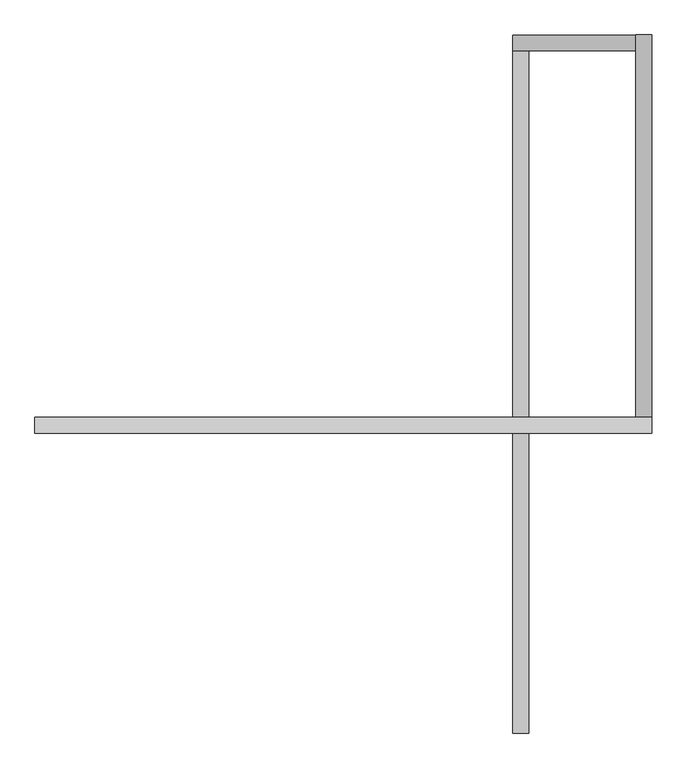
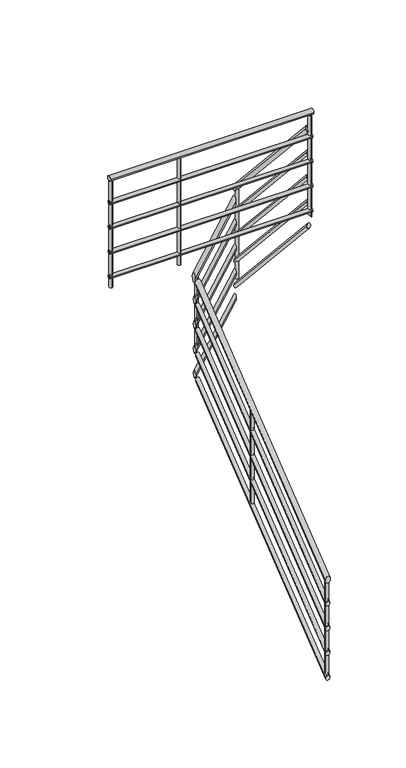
"""IFC4 building model written with IfcOpenShell, lengths in millimetres: railing geometry, Труба 900мм."""

from ifc_helpers import new_model, si_unit, point, frame, frame_2d, origin, place, context, project, spatial, circle_curve, ellipse_curve, trimmed, segment, composite_curve, outline, extrude, source, transform, mapped, element, save
from ifc_brep_helpers import plane_surface, cylinder_surface, advanced_brep


def railing_461c5c3b(model_context):
    return source(origin(), model_context, "Body", "SolidModel", [
        advanced_brep(
        [(-6989.2998207, 4395.4374152, 976.3290722), (-6949.2998207, 4395.4374152, 976.3290722), (-6989.2998207, 6114.4374152, 2338.8125597), (-6949.2998207, 6114.4374152, 2338.8125597)],
        [
            (0, 1, ellipse_curve(frame((-6969.2998207, 4395.4374152, 976.3290722), z_axis=(0.0, -1.0, 0.0), x_axis=(0.0, 0.0, -1.0)), 25.5203333, 20.0)),
            (1, 0, ellipse_curve(frame((-6969.2998207, 4395.4374152, 976.3290722), z_axis=(0.0, -1.0, 0.0), x_axis=(0.0, 0.0, -1.0)), 25.5203333, 20.0)),
            (2, 3, ellipse_curve(frame((-6969.2998207, 6114.4374152, 2338.8125597), z_axis=(0.0, 1.0, 0.0), x_axis=(0.0, 0.0, -1.0)), 25.5203333, 20.0)),
            (3, 2, ellipse_curve(frame((-6969.2998207, 6114.4374152, 2338.8125597), z_axis=(0.0, 1.0, 0.0), x_axis=(0.0, 0.0, -1.0)), 25.5203333, 20.0)),
            (0, 2),
            (3, 1),
        ],
        [
            plane_surface(frame((-6969.2998207, 4395.4374152, 1001.8494055), z_axis=(0.0, -1.0, 0.0), x_axis=(0.0, 0.0, 1.0))),
            plane_surface(frame((-6969.2998207, 6114.4374152, 2364.332893), z_axis=(0.0, 1.0, 0.0), x_axis=(0.0, 0.0, 1.0))),
            cylinder_surface(frame((-6969.2998207, 4407.8604877, 986.1756291), z_axis=(0.0, -0.7836888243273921, -0.6211536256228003), x_axis=(1.0, 0.0, 0.0)), 20.0),
        ],
        [
            (0, [[1, 2]]),
            (1, [[3, 4]]),
            (2, [[-1, 5, -4, 6]]),
            (2, [[-2, -6, -3, -5]]),
        ],
    ),
        advanced_brep(
        [(-6989.2998207, 6154.4374152, 2369.4603207), (-6989.2998207, 6114.4374152, 2369.4603207), (-6679.2998207, 6154.4374152, 2886.1269874), (-6679.2998207, 6114.4374152, 2886.1269874)],
        [
            (0, 1, ellipse_curve(frame((-6989.2998207, 6134.4374152, 2369.4603207), z_axis=(-1.0, 0.0, 0.0), x_axis=(0.0, 0.0, -0.9999999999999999)), 38.8730126, 20.0)),
            (1, 0, ellipse_curve(frame((-6989.2998207, 6134.4374152, 2369.4603207), z_axis=(-1.0, 0.0, 0.0), x_axis=(0.0, 0.0, -0.9999999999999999)), 38.8730126, 20.0)),
            (2, 3, ellipse_curve(frame((-6679.2998207, 6134.4374152, 2886.1269874), z_axis=(1.0, 0.0, 0.0), x_axis=(0.0, 0.0, -0.9999999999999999)), 38.8730126, 20.0)),
            (3, 2, ellipse_curve(frame((-6679.2998207, 6134.4374152, 2886.1269874), z_axis=(1.0, 0.0, 0.0), x_axis=(0.0, 0.0, -0.9999999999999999)), 38.8730126, 20.0)),
            (0, 2),
            (3, 1),
        ],
        [
            plane_surface(frame((-6989.2998207, 6134.4374152, 2408.3333333), z_axis=(-1.0, 0.0, 0.0), x_axis=(0.0, 1.0, 0.0))),
            plane_surface(frame((-6679.2998207, 6134.4374152, 2925.0), z_axis=(1.0, 0.0, 0.0), x_axis=(0.0, 1.0, 0.0))),
            cylinder_surface(frame((-6972.1499622, 6134.4374152, 2398.0434182), z_axis=(-0.514495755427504, 0.0, -0.8574929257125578), x_axis=(0.0, -1.0, 0.0)), 20.0),
        ],
        [
            (0, [[1, 2]]),
            (1, [[3, 4]]),
            (2, [[-1, 5, -4, 6]]),
            (2, [[-2, -6, -3, -5]]),
        ],
    ),
        advanced_brep(
        [(-6639.2998207, 6154.4374152, 2975.7483781), (-6679.2998207, 6154.4374152, 2975.7483781), (-6639.2998207, 5190.4374152, 4038.0640625), (-6679.2998207, 5190.4374152, 4038.0640625)],
        [
            (0, 1, ellipse_curve(frame((-6659.2998207, 6154.4374152, 2975.7483781), z_axis=(0.0, 1.0, 0.0), x_axis=(0.0, 0.0, -1.0)), 29.761558, 20.0)),
            (1, 0, ellipse_curve(frame((-6659.2998207, 6154.4374152, 2975.7483781), z_axis=(0.0, 1.0, 0.0), x_axis=(0.0, 0.0, -1.0)), 29.761558, 20.0)),
            (2, 3, ellipse_curve(frame((-6659.2998207, 5190.4374152, 4038.0640625), z_axis=(0.0, -1.0, 0.0), x_axis=(0.0, 0.0, -1.0)), 29.761558, 20.0)),
            (3, 2, ellipse_curve(frame((-6659.2998207, 5190.4374152, 4038.0640625), z_axis=(0.0, -1.0, 0.0), x_axis=(0.0, 0.0, -1.0)), 29.761558, 20.0)),
            (0, 2),
            (3, 1),
        ],
        [
            plane_surface(frame((-6659.2998207, 6154.4374152, 3005.5099361), z_axis=(0.0, 1.0, 0.0), x_axis=(0.0, 0.0, -1.0))),
            plane_surface(frame((-6659.2998207, 5190.4374152, 4067.8256205), z_axis=(0.0, -1.0, 0.0), x_axis=(0.0, 0.0, -1.0))),
            cylinder_surface(frame((-6659.2998207, 6139.6265344, 2992.0697795), z_axis=(0.0, 0.6720078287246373, -0.7405440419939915), x_axis=(-1.0, 0.0, 0.0)), 20.0),
        ],
        [
            (0, [[1, 2]]),
            (1, [[3, 4]]),
            (2, [[-1, 5, -4, 6]]),
            (2, [[-2, -6, -3, -5]]),
        ],
    ),
        advanced_brep(
        [(-6639.2998207, 5150.4374152, 4180.0), (-6639.2998207, 5190.4374152, 4180.0), (-8194.2998207, 5150.4374152, 4180.0), (-8194.2998207, 5190.4374152, 4180.0)],
        [
            (0, 1, circle_curve(frame((-6639.2998207, 5170.4374152, 4180.0), z_axis=(1.0, 0.0, 0.0), x_axis=(0.0, 1.0, 0.0)), 20.0)),
            (1, 0, circle_curve(frame((-6639.2998207, 5170.4374152, 4180.0), z_axis=(1.0, 0.0, 0.0), x_axis=(0.0, 1.0, 0.0)), 20.0)),
            (2, 3, circle_curve(frame((-8194.2998207, 5170.4374152, 4180.0), z_axis=(-1.0, 0.0, 0.0), x_axis=(0.0, 1.0, 0.0)), 20.0)),
            (3, 2, circle_curve(frame((-8194.2998207, 5170.4374152, 4180.0), z_axis=(-1.0, 0.0, 0.0), x_axis=(0.0, 1.0, 0.0)), 20.0)),
            (0, 2),
            (3, 1),
        ],
        [
            plane_surface(frame((-6639.2998207, 5170.4374152, 4200.0), z_axis=(1.0, 0.0, 0.0), x_axis=(0.0, -1.0, 0.0))),
            plane_surface(frame((-8194.2998207, 5170.4374152, 4200.0), z_axis=(-1.0, 0.0, 0.0), x_axis=(0.0, -1.0, 0.0))),
            cylinder_surface(frame((-6639.2998207, 5170.4374152, 4180.0), z_axis=(1.0, 0.0, 0.0), x_axis=(0.0, 1.0, 0.0)), 20.0),
        ],
        [
            (0, [[1, 2]]),
            (1, [[3, 4]]),
            (2, [[-1, 5, -4, 6]]),
            (2, [[-2, -6, -3, -5]]),
        ],
    ),
        advanced_brep(
        [(-6984.2998207, 4395.4374152, 782.7091556), (-6954.2998207, 4395.4374152, 782.7091556), (-6984.2998207, 6119.4374152, 2149.1556549), (-6954.2998207, 6119.4374152, 2149.1556549)],
        [
            (0, 1, ellipse_curve(frame((-6969.2998207, 4395.4374152, 782.7091556), z_axis=(0.0, -1.0, 0.0), x_axis=(0.0, 0.0, -1.0)), 19.14025, 15.0)),
            (1, 0, ellipse_curve(frame((-6969.2998207, 4395.4374152, 782.7091556), z_axis=(0.0, -1.0, 0.0), x_axis=(0.0, 0.0, -1.0)), 19.14025, 15.0)),
            (2, 3, ellipse_curve(frame((-6969.2998207, 6119.4374152, 2149.1556549), z_axis=(0.0, 1.0, 0.0), x_axis=(0.0, 0.0, -1.0)), 19.14025, 15.0)),
            (3, 2, ellipse_curve(frame((-6969.2998207, 6119.4374152, 2149.1556549), z_axis=(0.0, 1.0, 0.0), x_axis=(0.0, 0.0, -1.0)), 19.14025, 15.0)),
            (0, 2),
            (3, 1),
        ],
        [
            plane_surface(frame((-6969.2998207, 4395.4374152, 801.8494055), z_axis=(0.0, -1.0, 0.0), x_axis=(0.0, 0.0, 1.0))),
            plane_surface(frame((-6969.2998207, 6119.4374152, 2168.2959049), z_axis=(0.0, 1.0, 0.0), x_axis=(0.0, 0.0, 1.0))),
            cylinder_surface(frame((-6969.2998207, 4404.7547196, 790.0940732), z_axis=(0.0, -0.7836888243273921, -0.6211536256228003), x_axis=(1.0, 0.0, 0.0)), 15.0),
        ],
        [
            (0, [[1, 2]]),
            (1, [[3, 4]]),
            (2, [[-1, 5, -4, 6]]),
            (2, [[-2, -6, -3, -5]]),
        ],
    ),
        advanced_brep(
        [(-6984.2998207, 6149.4374152, 2187.5119072), (-6984.2998207, 6119.4374152, 2187.5119072), (-6674.2998207, 6149.4374152, 2704.1785739), (-6674.2998207, 6119.4374152, 2704.1785739)],
        [
            (0, 1, ellipse_curve(frame((-6984.2998207, 6134.4374152, 2187.5119072), z_axis=(-1.0, 0.0, 0.0), x_axis=(0.0, 0.0, -0.9999999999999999)), 29.1547595, 15.0)),
            (1, 0, ellipse_curve(frame((-6984.2998207, 6134.4374152, 2187.5119072), z_axis=(-1.0, 0.0, 0.0), x_axis=(0.0, 0.0, -0.9999999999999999)), 29.1547595, 15.0)),
            (2, 3, ellipse_curve(frame((-6674.2998207, 6134.4374152, 2704.1785739), z_axis=(1.0, 0.0, 0.0), x_axis=(0.0, 0.0, -0.9999999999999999)), 29.1547595, 15.0)),
            (3, 2, ellipse_curve(frame((-6674.2998207, 6134.4374152, 2704.1785739), z_axis=(1.0, 0.0, 0.0), x_axis=(0.0, 0.0, -0.9999999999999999)), 29.1547595, 15.0)),
            (0, 2),
            (3, 1),
        ],
        [
            plane_surface(frame((-6984.2998207, 6134.4374152, 2216.6666667), z_axis=(-1.0, 0.0, 0.0), x_axis=(0.0, 1.0, 0.0))),
            plane_surface(frame((-6674.2998207, 6134.4374152, 2733.3333333), z_axis=(1.0, 0.0, 0.0), x_axis=(0.0, 1.0, 0.0))),
            cylinder_surface(frame((-6971.4374268, 6134.4374152, 2208.9492303), z_axis=(-0.514495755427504, 0.0, -0.8574929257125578), x_axis=(0.0, -1.0, 0.0)), 15.0),
        ],
        [
            (0, [[1, 2]]),
            (1, [[3, 4]]),
            (2, [[-1, 5, -4, 6]]),
            (2, [[-2, -6, -3, -5]]),
        ],
    ),
        advanced_brep(
        [(-6644.2998207, 6149.4374152, 2788.6987037), (-6674.2998207, 6149.4374152, 2788.6987037), (-6644.2998207, 5185.4374152, 3851.0143881), (-6674.2998207, 5185.4374152, 3851.0143881)],
        [
            (0, 1, ellipse_curve(frame((-6659.2998207, 6149.4374152, 2788.6987037), z_axis=(0.0, 1.0, 0.0), x_axis=(0.0, 0.0, -1.0)), 22.3211685, 15.0)),
            (1, 0, ellipse_curve(frame((-6659.2998207, 6149.4374152, 2788.6987037), z_axis=(0.0, 1.0, 0.0), x_axis=(0.0, 0.0, -1.0)), 22.3211685, 15.0)),
            (2, 3, ellipse_curve(frame((-6659.2998207, 5185.4374152, 3851.0143881), z_axis=(0.0, -1.0, 0.0), x_axis=(0.0, 0.0, -1.0)), 22.3211685, 15.0)),
            (3, 2, ellipse_curve(frame((-6659.2998207, 5185.4374152, 3851.0143881), z_axis=(0.0, -1.0, 0.0), x_axis=(0.0, 0.0, -1.0)), 22.3211685, 15.0)),
            (0, 2),
            (3, 1),
        ],
        [
            plane_surface(frame((-6659.2998207, 6149.4374152, 2811.0198722), z_axis=(0.0, 1.0, 0.0), x_axis=(0.0, 0.0, -1.0))),
            plane_surface(frame((-6659.2998207, 5185.4374152, 3873.3355566), z_axis=(0.0, -1.0, 0.0), x_axis=(0.0, 0.0, -1.0))),
            cylinder_surface(frame((-6659.2998207, 6138.3292546, 2800.9397548), z_axis=(0.0, 0.6720078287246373, -0.7405440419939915), x_axis=(-1.0, 0.0, 0.0)), 15.0),
        ],
        [
            (0, [[1, 2]]),
            (1, [[3, 4]]),
            (2, [[-1, 5, -4, 6]]),
            (2, [[-2, -6, -3, -5]]),
        ],
    ),
        advanced_brep(
        [(-6644.2998207, 5155.4374152, 3985.0), (-6644.2998207, 5185.4374152, 3985.0), (-8194.2998207, 5155.4374152, 3985.0), (-8194.2998207, 5185.4374152, 3985.0)],
        [
            (0, 1, circle_curve(frame((-6644.2998207, 5170.4374152, 3985.0), z_axis=(1.0, 0.0, 0.0), x_axis=(0.0, 1.0, 0.0)), 15.0)),
            (1, 0, circle_curve(frame((-6644.2998207, 5170.4374152, 3985.0), z_axis=(1.0, 0.0, 0.0), x_axis=(0.0, 1.0, 0.0)), 15.0)),
            (2, 3, circle_curve(frame((-8194.2998207, 5170.4374152, 3985.0), z_axis=(-1.0, 0.0, 0.0), x_axis=(0.0, 1.0, 0.0)), 15.0)),
            (3, 2, circle_curve(frame((-8194.2998207, 5170.4374152, 3985.0), z_axis=(-1.0, 0.0, 0.0), x_axis=(0.0, 1.0, 0.0)), 15.0)),
            (0, 2),
            (3, 1),
        ],
        [
            plane_surface(frame((-6644.2998207, 5170.4374152, 4000.0), z_axis=(1.0, 0.0, 0.0), x_axis=(0.0, -1.0, 0.0))),
            plane_surface(frame((-8194.2998207, 5170.4374152, 4000.0), z_axis=(-1.0, 0.0, 0.0), x_axis=(0.0, -1.0, 0.0))),
            cylinder_surface(frame((-6644.2998207, 5170.4374152, 3985.0), z_axis=(1.0, 0.0, 0.0), x_axis=(0.0, 1.0, 0.0)), 15.0),
        ],
        [
            (0, [[1, 2]]),
            (1, [[3, 4]]),
            (2, [[-1, 5, -4, 6]]),
            (2, [[-2, -6, -3, -5]]),
        ],
    ),
        advanced_brep(
        [(-6984.2998207, 4395.4374152, 582.7091556), (-6954.2998207, 4395.4374152, 582.7091556), (-6984.2998207, 6119.4374152, 1949.1556549), (-6954.2998207, 6119.4374152, 1949.1556549)],
        [
            (0, 1, ellipse_curve(frame((-6969.2998207, 4395.4374152, 582.7091556), z_axis=(0.0, -1.0, 0.0), x_axis=(0.0, 0.0, -1.0)), 19.14025, 15.0)),
            (1, 0, ellipse_curve(frame((-6969.2998207, 4395.4374152, 582.7091556), z_axis=(0.0, -1.0, 0.0), x_axis=(0.0, 0.0, -1.0)), 19.14025, 15.0)),
            (2, 3, ellipse_curve(frame((-6969.2998207, 6119.4374152, 1949.1556549), z_axis=(0.0, 1.0, 0.0), x_axis=(0.0, 0.0, -1.0)), 19.14025, 15.0)),
            (3, 2, ellipse_curve(frame((-6969.2998207, 6119.4374152, 1949.1556549), z_axis=(0.0, 1.0, 0.0), x_axis=(0.0, 0.0, -1.0)), 19.14025, 15.0)),
            (0, 2),
            (3, 1),
        ],
        [
            plane_surface(frame((-6969.2998207, 4395.4374152, 601.8494055), z_axis=(0.0, -1.0, 0.0), x_axis=(0.0, 0.0, 1.0))),
            plane_surface(frame((-6969.2998207, 6119.4374152, 1968.2959049), z_axis=(0.0, 1.0, 0.0), x_axis=(0.0, 0.0, 1.0))),
            cylinder_surface(frame((-6969.2998207, 4404.7547196, 590.0940732), z_axis=(0.0, -0.7836888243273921, -0.6211536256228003), x_axis=(1.0, 0.0, 0.0)), 15.0),
        ],
        [
            (0, [[1, 2]]),
            (1, [[3, 4]]),
            (2, [[-1, 5, -4, 6]]),
            (2, [[-2, -6, -3, -5]]),
        ],
    ),
        advanced_brep(
        [(-6984.2998207, 6149.4374152, 1987.5119072), (-6984.2998207, 6119.4374152, 1987.5119072), (-6674.2998207, 6149.4374152, 2504.1785739), (-6674.2998207, 6119.4374152, 2504.1785739)],
        [
            (0, 1, ellipse_curve(frame((-6984.2998207, 6134.4374152, 1987.5119072), z_axis=(-1.0, 0.0, 0.0), x_axis=(0.0, 0.0, -0.9999999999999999)), 29.1547595, 15.0)),
            (1, 0, ellipse_curve(frame((-6984.2998207, 6134.4374152, 1987.5119072), z_axis=(-1.0, 0.0, 0.0), x_axis=(0.0, 0.0, -0.9999999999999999)), 29.1547595, 15.0)),
            (2, 3, ellipse_curve(frame((-6674.2998207, 6134.4374152, 2504.1785739), z_axis=(1.0, 0.0, 0.0), x_axis=(0.0, 0.0, -0.9999999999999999)), 29.1547595, 15.0)),
            (3, 2, ellipse_curve(frame((-6674.2998207, 6134.4374152, 2504.1785739), z_axis=(1.0, 0.0, 0.0), x_axis=(0.0, 0.0, -0.9999999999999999)), 29.1547595, 15.0)),
            (0, 2),
            (3, 1),
        ],
        [
            plane_surface(frame((-6984.2998207, 6134.4374152, 2016.6666667), z_axis=(-1.0, 0.0, 0.0), x_axis=(0.0, 1.0, 0.0))),
            plane_surface(frame((-6674.2998207, 6134.4374152, 2533.3333333), z_axis=(1.0, 0.0, 0.0), x_axis=(0.0, 1.0, 0.0))),
            cylinder_surface(frame((-6971.4374268, 6134.4374152, 2008.9492303), z_axis=(-0.514495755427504, 0.0, -0.8574929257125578), x_axis=(0.0, -1.0, 0.0)), 15.0),
        ],
        [
            (0, [[1, 2]]),
            (1, [[3, 4]]),
            (2, [[-1, 5, -4, 6]]),
            (2, [[-2, -6, -3, -5]]),
        ],
    ),
        advanced_brep(
        [(-6644.2998207, 6149.4374152, 2588.6987037), (-6674.2998207, 6149.4374152, 2588.6987037), (-6644.2998207, 5185.4374152, 3651.0143881), (-6674.2998207, 5185.4374152, 3651.0143881)],
        [
            (0, 1, ellipse_curve(frame((-6659.2998207, 6149.4374152, 2588.6987037), z_axis=(0.0, 1.0, 0.0), x_axis=(0.0, 0.0, -1.0)), 22.3211685, 15.0)),
            (1, 0, ellipse_curve(frame((-6659.2998207, 6149.4374152, 2588.6987037), z_axis=(0.0, 1.0, 0.0), x_axis=(0.0, 0.0, -1.0)), 22.3211685, 15.0)),
            (2, 3, ellipse_curve(frame((-6659.2998207, 5185.4374152, 3651.0143881), z_axis=(0.0, -1.0, 0.0), x_axis=(0.0, 0.0, -1.0)), 22.3211685, 15.0)),
            (3, 2, ellipse_curve(frame((-6659.2998207, 5185.4374152, 3651.0143881), z_axis=(0.0, -1.0, 0.0), x_axis=(0.0, 0.0, -1.0)), 22.3211685, 15.0)),
            (0, 2),
            (3, 1),
        ],
        [
            plane_surface(frame((-6659.2998207, 6149.4374152, 2611.0198722), z_axis=(0.0, 1.0, 0.0), x_axis=(0.0, 0.0, -1.0))),
            plane_surface(frame((-6659.2998207, 5185.4374152, 3673.3355566), z_axis=(0.0, -1.0, 0.0), x_axis=(0.0, 0.0, -1.0))),
            cylinder_surface(frame((-6659.2998207, 6138.3292546, 2600.9397548), z_axis=(0.0, 0.6720078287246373, -0.7405440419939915), x_axis=(-1.0, 0.0, 0.0)), 15.0),
        ],
        [
            (0, [[1, 2]]),
            (1, [[3, 4]]),
            (2, [[-1, 5, -4, 6]]),
            (2, [[-2, -6, -3, -5]]),
        ],
    ),
        advanced_brep(
        [(-6644.2998207, 5155.4374152, 3785.0), (-6644.2998207, 5185.4374152, 3785.0), (-8194.2998207, 5155.4374152, 3785.0), (-8194.2998207, 5185.4374152, 3785.0)],
        [
            (0, 1, circle_curve(frame((-6644.2998207, 5170.4374152, 3785.0), z_axis=(1.0, 0.0, 0.0), x_axis=(0.0, 1.0, 0.0)), 15.0)),
            (1, 0, circle_curve(frame((-6644.2998207, 5170.4374152, 3785.0), z_axis=(1.0, 0.0, 0.0), x_axis=(0.0, 1.0, 0.0)), 15.0)),
            (2, 3, circle_curve(frame((-8194.2998207, 5170.4374152, 3785.0), z_axis=(-1.0, 0.0, 0.0), x_axis=(0.0, 1.0, 0.0)), 15.0)),
            (3, 2, circle_curve(frame((-8194.2998207, 5170.4374152, 3785.0), z_axis=(-1.0, 0.0, 0.0), x_axis=(0.0, 1.0, 0.0)), 15.0)),
            (0, 2),
            (3, 1),
        ],
        [
            plane_surface(frame((-6644.2998207, 5170.4374152, 3800.0), z_axis=(1.0, 0.0, 0.0), x_axis=(0.0, -1.0, 0.0))),
            plane_surface(frame((-8194.2998207, 5170.4374152, 3800.0), z_axis=(-1.0, 0.0, 0.0), x_axis=(0.0, -1.0, 0.0))),
            cylinder_surface(frame((-6644.2998207, 5170.4374152, 3785.0), z_axis=(1.0, 0.0, 0.0), x_axis=(0.0, 1.0, 0.0)), 15.0),
        ],
        [
            (0, [[1, 2]]),
            (1, [[3, 4]]),
            (2, [[-1, 5, -4, 6]]),
            (2, [[-2, -6, -3, -5]]),
        ],
    ),
        advanced_brep(
        [(-6984.2998207, 4395.4374152, 382.7091556), (-6954.2998207, 4395.4374152, 382.7091556), (-6984.2998207, 6119.4374152, 1749.1556549), (-6954.2998207, 6119.4374152, 1749.1556549)],
        [
            (0, 1, ellipse_curve(frame((-6969.2998207, 4395.4374152, 382.7091556), z_axis=(0.0, -1.0, 0.0), x_axis=(0.0, 0.0, -1.0)), 19.14025, 15.0)),
            (1, 0, ellipse_curve(frame((-6969.2998207, 4395.4374152, 382.7091556), z_axis=(0.0, -1.0, 0.0), x_axis=(0.0, 0.0, -1.0)), 19.14025, 15.0)),
            (2, 3, ellipse_curve(frame((-6969.2998207, 6119.4374152, 1749.1556549), z_axis=(0.0, 1.0, 0.0), x_axis=(0.0, 0.0, -1.0)), 19.14025, 15.0)),
            (3, 2, ellipse_curve(frame((-6969.2998207, 6119.4374152, 1749.1556549), z_axis=(0.0, 1.0, 0.0), x_axis=(0.0, 0.0, -1.0)), 19.14025, 15.0)),
            (0, 2),
            (3, 1),
        ],
        [
            plane_surface(frame((-6969.2998207, 4395.4374152, 401.8494055), z_axis=(0.0, -1.0, 0.0), x_axis=(0.0, 0.0, 1.0))),
            plane_surface(frame((-6969.2998207, 6119.4374152, 1768.2959049), z_axis=(0.0, 1.0, 0.0), x_axis=(0.0, 0.0, 1.0))),
            cylinder_surface(frame((-6969.2998207, 4404.7547196, 390.0940732), z_axis=(0.0, -0.7836888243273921, -0.6211536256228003), x_axis=(1.0, 0.0, 0.0)), 15.0),
        ],
        [
            (0, [[1, 2]]),
            (1, [[3, 4]]),
            (2, [[-1, 5, -4, 6]]),
            (2, [[-2, -6, -3, -5]]),
        ],
    ),
        advanced_brep(
        [(-6984.2998207, 6149.4374152, 1787.5119072), (-6984.2998207, 6119.4374152, 1787.5119072), (-6674.2998207, 6149.4374152, 2304.1785739), (-6674.2998207, 6119.4374152, 2304.1785739)],
        [
            (0, 1, ellipse_curve(frame((-6984.2998207, 6134.4374152, 1787.5119072), z_axis=(-1.0, 0.0, 0.0), x_axis=(0.0, 0.0, -0.9999999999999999)), 29.1547595, 15.0)),
            (1, 0, ellipse_curve(frame((-6984.2998207, 6134.4374152, 1787.5119072), z_axis=(-1.0, 0.0, 0.0), x_axis=(0.0, 0.0, -0.9999999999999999)), 29.1547595, 15.0)),
            (2, 3, ellipse_curve(frame((-6674.2998207, 6134.4374152, 2304.1785739), z_axis=(1.0, 0.0, 0.0), x_axis=(0.0, 0.0, -0.9999999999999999)), 29.1547595, 15.0)),
            (3, 2, ellipse_curve(frame((-6674.2998207, 6134.4374152, 2304.1785739), z_axis=(1.0, 0.0, 0.0), x_axis=(0.0, 0.0, -0.9999999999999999)), 29.1547595, 15.0)),
            (0, 2),
            (3, 1),
        ],
        [
            plane_surface(frame((-6984.2998207, 6134.4374152, 1816.6666667), z_axis=(-1.0, 0.0, 0.0), x_axis=(0.0, 1.0, 0.0))),
            plane_surface(frame((-6674.2998207, 6134.4374152, 2333.3333333), z_axis=(1.0, 0.0, 0.0), x_axis=(0.0, 1.0, 0.0))),
            cylinder_surface(frame((-6971.4374268, 6134.4374152, 1808.9492303), z_axis=(-0.514495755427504, 0.0, -0.8574929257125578), x_axis=(0.0, -1.0, 0.0)), 15.0),
        ],
        [
            (0, [[1, 2]]),
            (1, [[3, 4]]),
            (2, [[-1, 5, -4, 6]]),
            (2, [[-2, -6, -3, -5]]),
        ],
    ),
        advanced_brep(
        [(-6644.2998207, 6149.4374152, 2388.6987037), (-6674.2998207, 6149.4374152, 2388.6987037), (-6644.2998207, 5185.4374152, 3451.0143881), (-6674.2998207, 5185.4374152, 3451.0143881)],
        [
            (0, 1, ellipse_curve(frame((-6659.2998207, 6149.4374152, 2388.6987037), z_axis=(0.0, 1.0, 0.0), x_axis=(0.0, 0.0, -1.0)), 22.3211685, 15.0)),
            (1, 0, ellipse_curve(frame((-6659.2998207, 6149.4374152, 2388.6987037), z_axis=(0.0, 1.0, 0.0), x_axis=(0.0, 0.0, -1.0)), 22.3211685, 15.0)),
            (2, 3, ellipse_curve(frame((-6659.2998207, 5185.4374152, 3451.0143881), z_axis=(0.0, -1.0, 0.0), x_axis=(0.0, 0.0, -1.0)), 22.3211685, 15.0)),
            (3, 2, ellipse_curve(frame((-6659.2998207, 5185.4374152, 3451.0143881), z_axis=(0.0, -1.0, 0.0), x_axis=(0.0, 0.0, -1.0)), 22.3211685, 15.0)),
            (0, 2),
            (3, 1),
        ],
        [
            plane_surface(frame((-6659.2998207, 6149.4374152, 2411.0198722), z_axis=(0.0, 1.0, 0.0), x_axis=(0.0, 0.0, -1.0))),
            plane_surface(frame((-6659.2998207, 5185.4374152, 3473.3355566), z_axis=(0.0, -1.0, 0.0), x_axis=(0.0, 0.0, -1.0))),
            cylinder_surface(frame((-6659.2998207, 6138.3292546, 2400.9397548), z_axis=(0.0, 0.6720078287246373, -0.7405440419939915), x_axis=(-1.0, 0.0, 0.0)), 15.0),
        ],
        [
            (0, [[1, 2]]),
            (1, [[3, 4]]),
            (2, [[-1, 5, -4, 6]]),
            (2, [[-2, -6, -3, -5]]),
        ],
    ),
        advanced_brep(
        [(-6644.2998207, 5155.4374152, 3585.0), (-6644.2998207, 5185.4374152, 3585.0), (-8194.2998207, 5155.4374152, 3585.0), (-8194.2998207, 5185.4374152, 3585.0)],
        [
            (0, 1, circle_curve(frame((-6644.2998207, 5170.4374152, 3585.0), z_axis=(1.0, 0.0, 0.0), x_axis=(0.0, 1.0, 0.0)), 15.0)),
            (1, 0, circle_curve(frame((-6644.2998207, 5170.4374152, 3585.0), z_axis=(1.0, 0.0, 0.0), x_axis=(0.0, 1.0, 0.0)), 15.0)),
            (2, 3, circle_curve(frame((-8194.2998207, 5170.4374152, 3585.0), z_axis=(-1.0, 0.0, 0.0), x_axis=(0.0, 1.0, 0.0)), 15.0)),
            (3, 2, circle_curve(frame((-8194.2998207, 5170.4374152, 3585.0), z_axis=(-1.0, 0.0, 0.0), x_axis=(0.0, 1.0, 0.0)), 15.0)),
            (0, 2),
            (3, 1),
        ],
        [
            plane_surface(frame((-6644.2998207, 5170.4374152, 3600.0), z_axis=(1.0, 0.0, 0.0), x_axis=(0.0, -1.0, 0.0))),
            plane_surface(frame((-8194.2998207, 5170.4374152, 3600.0), z_axis=(-1.0, 0.0, 0.0), x_axis=(0.0, -1.0, 0.0))),
            cylinder_surface(frame((-6644.2998207, 5170.4374152, 3585.0), z_axis=(1.0, 0.0, 0.0), x_axis=(0.0, 1.0, 0.0)), 15.0),
        ],
        [
            (0, [[1, 2]]),
            (1, [[3, 4]]),
            (2, [[-1, 5, -4, 6]]),
            (2, [[-2, -6, -3, -5]]),
        ],
    ),
        advanced_brep(
        [(-6984.2998207, 4395.4374152, 182.7091556), (-6954.2998207, 4395.4374152, 182.7091556), (-6984.2998207, 6119.4374152, 1549.1556549), (-6954.2998207, 6119.4374152, 1549.1556549)],
        [
            (0, 1, ellipse_curve(frame((-6969.2998207, 4395.4374152, 182.7091556), z_axis=(0.0, -1.0, 0.0), x_axis=(0.0, 0.0, -1.0)), 19.14025, 15.0)),
            (1, 0, ellipse_curve(frame((-6969.2998207, 4395.4374152, 182.7091556), z_axis=(0.0, -1.0, 0.0), x_axis=(0.0, 0.0, -1.0)), 19.14025, 15.0)),
            (2, 3, ellipse_curve(frame((-6969.2998207, 6119.4374152, 1549.1556549), z_axis=(0.0, 1.0, 0.0), x_axis=(0.0, 0.0, -1.0)), 19.14025, 15.0)),
            (3, 2, ellipse_curve(frame((-6969.2998207, 6119.4374152, 1549.1556549), z_axis=(0.0, 1.0, 0.0), x_axis=(0.0, 0.0, -1.0)), 19.14025, 15.0)),
            (0, 2),
            (3, 1),
        ],
        [
            plane_surface(frame((-6969.2998207, 4395.4374152, 201.8494055), z_axis=(0.0, -1.0, 0.0), x_axis=(0.0, 0.0, 1.0))),
            plane_surface(frame((-6969.2998207, 6119.4374152, 1568.2959049), z_axis=(0.0, 1.0, 0.0), x_axis=(0.0, 0.0, 1.0))),
            cylinder_surface(frame((-6969.2998207, 4404.7547196, 190.0940732), z_axis=(0.0, -0.7836888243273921, -0.6211536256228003), x_axis=(1.0, 0.0, 0.0)), 15.0),
        ],
        [
            (0, [[1, 2]]),
            (1, [[3, 4]]),
            (2, [[-1, 5, -4, 6]]),
            (2, [[-2, -6, -3, -5]]),
        ],
    ),
        advanced_brep(
        [(-6984.2998207, 6149.4374152, 1587.5119072), (-6984.2998207, 6119.4374152, 1587.5119072), (-6674.2998207, 6149.4374152, 2104.1785739), (-6674.2998207, 6119.4374152, 2104.1785739)],
        [
            (0, 1, ellipse_curve(frame((-6984.2998207, 6134.4374152, 1587.5119072), z_axis=(-1.0, 0.0, 0.0), x_axis=(0.0, 0.0, -0.9999999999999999)), 29.1547595, 15.0)),
            (1, 0, ellipse_curve(frame((-6984.2998207, 6134.4374152, 1587.5119072), z_axis=(-1.0, 0.0, 0.0), x_axis=(0.0, 0.0, -0.9999999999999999)), 29.1547595, 15.0)),
            (2, 3, ellipse_curve(frame((-6674.2998207, 6134.4374152, 2104.1785739), z_axis=(1.0, 0.0, 0.0), x_axis=(0.0, 0.0, -0.9999999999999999)), 29.1547595, 15.0)),
            (3, 2, ellipse_curve(frame((-6674.2998207, 6134.4374152, 2104.1785739), z_axis=(1.0, 0.0, 0.0), x_axis=(0.0, 0.0, -0.9999999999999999)), 29.1547595, 15.0)),
            (0, 2),
            (3, 1),
        ],
        [
            plane_surface(frame((-6984.2998207, 6134.4374152, 1616.6666667), z_axis=(-1.0, 0.0, 0.0), x_axis=(0.0, 1.0, 0.0))),
            plane_surface(frame((-6674.2998207, 6134.4374152, 2133.3333333), z_axis=(1.0, 0.0, 0.0), x_axis=(0.0, 1.0, 0.0))),
            cylinder_surface(frame((-6971.4374268, 6134.4374152, 1608.9492303), z_axis=(-0.514495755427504, 0.0, -0.8574929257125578), x_axis=(0.0, -1.0, 0.0)), 15.0),
        ],
        [
            (0, [[1, 2]]),
            (1, [[3, 4]]),
            (2, [[-1, 5, -4, 6]]),
            (2, [[-2, -6, -3, -5]]),
        ],
    ),
        advanced_brep(
        [(-6644.2998207, 6149.4374152, 2188.6987037), (-6674.2998207, 6149.4374152, 2188.6987037), (-6644.2998207, 5185.4374152, 3251.0143881), (-6674.2998207, 5185.4374152, 3251.0143881)],
        [
            (0, 1, ellipse_curve(frame((-6659.2998207, 6149.4374152, 2188.6987037), z_axis=(0.0, 1.0, 0.0), x_axis=(0.0, 0.0, -1.0)), 22.3211685, 15.0)),
            (1, 0, ellipse_curve(frame((-6659.2998207, 6149.4374152, 2188.6987037), z_axis=(0.0, 1.0, 0.0), x_axis=(0.0, 0.0, -1.0)), 22.3211685, 15.0)),
            (2, 3, ellipse_curve(frame((-6659.2998207, 5185.4374152, 3251.0143881), z_axis=(0.0, -1.0, 0.0), x_axis=(0.0, 0.0, -1.0)), 22.3211685, 15.0)),
            (3, 2, ellipse_curve(frame((-6659.2998207, 5185.4374152, 3251.0143881), z_axis=(0.0, -1.0, 0.0), x_axis=(0.0, 0.0, -1.0)), 22.3211685, 15.0)),
            (0, 2),
            (3, 1),
        ],
        [
            plane_surface(frame((-6659.2998207, 6149.4374152, 2211.0198722), z_axis=(0.0, 1.0, 0.0), x_axis=(0.0, 0.0, -1.0))),
            plane_surface(frame((-6659.2998207, 5185.4374152, 3273.3355566), z_axis=(0.0, -1.0, 0.0), x_axis=(0.0, 0.0, -1.0))),
            cylinder_surface(frame((-6659.2998207, 6138.3292546, 2200.9397548), z_axis=(0.0, 0.6720078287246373, -0.7405440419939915), x_axis=(-1.0, 0.0, 0.0)), 15.0),
        ],
        [
            (0, [[1, 2]]),
            (1, [[3, 4]]),
            (2, [[-1, 5, -4, 6]]),
            (2, [[-2, -6, -3, -5]]),
        ],
    ),
        advanced_brep(
        [(-6644.2998207, 5155.4374152, 3385.0), (-6644.2998207, 5185.4374152, 3385.0), (-8194.2998207, 5155.4374152, 3385.0), (-8194.2998207, 5185.4374152, 3385.0)],
        [
            (0, 1, circle_curve(frame((-6644.2998207, 5170.4374152, 3385.0), z_axis=(1.0, 0.0, 0.0), x_axis=(0.0, 1.0, 0.0)), 15.0)),
            (1, 0, circle_curve(frame((-6644.2998207, 5170.4374152, 3385.0), z_axis=(1.0, 0.0, 0.0), x_axis=(0.0, 1.0, 0.0)), 15.0)),
            (2, 3, circle_curve(frame((-8194.2998207, 5170.4374152, 3385.0), z_axis=(-1.0, 0.0, 0.0), x_axis=(0.0, 1.0, 0.0)), 15.0)),
            (3, 2, circle_curve(frame((-8194.2998207, 5170.4374152, 3385.0), z_axis=(-1.0, 0.0, 0.0), x_axis=(0.0, 1.0, 0.0)), 15.0)),
            (0, 2),
            (3, 1),
        ],
        [
            plane_surface(frame((-6644.2998207, 5170.4374152, 3400.0), z_axis=(1.0, 0.0, 0.0), x_axis=(0.0, -1.0, 0.0))),
            plane_surface(frame((-8194.2998207, 5170.4374152, 3400.0), z_axis=(-1.0, 0.0, 0.0), x_axis=(0.0, -1.0, 0.0))),
            cylinder_surface(frame((-6644.2998207, 5170.4374152, 3385.0), z_axis=(1.0, 0.0, 0.0), x_axis=(0.0, 1.0, 0.0)), 15.0),
        ],
        [
            (0, [[1, 2]]),
            (1, [[3, 4]]),
            (2, [[-1, 5, -4, 6]]),
            (2, [[-2, -6, -3, -5]]),
        ],
    ),
        extrude(outline(composite_curve([segment(trimmed(circle_curve(frame_2d((-7659.2998207, 5170.4374152)), 12.5), [point((-7659.2998207, 5157.9374152))], [point((-7659.2998207, 5182.9374152))], False, "CARTESIAN"), True, "CONTINUOUS"), segment(trimmed(circle_curve(frame_2d((-7659.2998207, 5170.4374152)), 12.5), [point((-7659.2998207, 5182.9374152))], [point((-7659.2998207, 5157.9374152))], False, "CARTESIAN"), True, "CONTINUOUS")], self_intersect=False)), frame((0.0, 0.0, 3300.0), z_axis=(0.0, 0.0, 1.0), x_axis=(1.0, 0.0, 0.0)), (0.0, 0.0, 1.0), 860.0),
        advanced_brep(
        [(-6956.7998207, 5395.4374152, 1743.4111168), (-6956.7998207, 5395.4374152, 1000.9963865), (-6981.7998207, 5395.4374152, 1000.9963865), (-6981.7998207, 5395.4374152, 1743.4111168)],
        [
            (0, 1),
            (1, 2, ellipse_curve(frame((-6969.2998207, 5395.4374152, 1000.9963865), z_axis=(0.0, -0.6211536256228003, 0.7836888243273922), x_axis=(0.0, 0.7836888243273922, 0.6211536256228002)), 15.9502083, 12.5)),
            (2, 3),
            (3, 0, ellipse_curve(frame((-6969.2998207, 5395.4374152, 1743.4111168), z_axis=(0.0, 0.6211536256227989, -0.7836888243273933), x_axis=(0.0, 0.7836888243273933, 0.6211536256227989)), 15.9502083, 12.5)),
            (0, 3, ellipse_curve(frame((-6969.2998207, 5395.4374152, 1743.4111168), z_axis=(0.0, 0.6211536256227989, -0.7836888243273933), x_axis=(0.0, 0.7836888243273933, 0.6211536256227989)), 15.9502083, 12.5)),
            (2, 1, ellipse_curve(frame((-6969.2998207, 5395.4374152, 1000.9963865), z_axis=(0.0, -0.6211536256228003, 0.7836888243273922), x_axis=(0.0, 0.7836888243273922, 0.6211536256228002)), 15.9502083, 12.5)),
        ],
        [
            cylinder_surface(frame((-6969.2998207, 5395.4374152, 900.9963865), z_axis=(0.0, 0.0, 1.0), x_axis=(-1.0, 0.0, 0.0)), 12.5),
            plane_surface(frame((-6994.2998207, 5420.4374152, 1763.2261762), z_axis=(0.0, -0.6211536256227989, 0.7836888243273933), x_axis=(1.0, 0.0, 0.0))),
            plane_surface(frame((-6994.2998207, 5370.4374152, 981.1813271), z_axis=(0.0, 0.6211536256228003, -0.7836888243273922), x_axis=(1.0, 0.0, 0.0))),
        ],
        [
            (0, [[1, 2, 3, 4]]),
            (0, [[-1, 5, -3, 6]]),
            (1, [[-4, -5]]),
            (2, [[-2, -6]]),
        ],
    ),
        advanced_brep(
        [(-6659.2998207, 5182.9374152, 4160.0), (-6659.2998207, 5182.9374152, 3345.1338444), (-6659.2998207, 5157.9374152, 3345.1338444), (-6659.2998207, 5157.9374152, 4160.0)],
        [
            (0, 1),
            (1, 2, ellipse_curve(frame((-6659.2998207, 5170.4374152, 3345.1338444), z_axis=(0.7405440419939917, 0.0, 0.672007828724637), x_axis=(-0.672007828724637, 0.0, 0.7405440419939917)), 18.6009738, 12.5)),
            (2, 3),
            (3, 0, circle_curve(frame((-6659.2998207, 5170.4374152, 4160.0), z_axis=(0.0, 0.0, -1.0), x_axis=(0.0, -1.0, 0.0)), 12.5)),
            (0, 3, circle_curve(frame((-6659.2998207, 5170.4374152, 4160.0), z_axis=(0.0, 0.0, -1.0), x_axis=(0.0, -1.0, 0.0)), 12.5)),
            (2, 1, ellipse_curve(frame((-6659.2998207, 5170.4374152, 3345.1338444), z_axis=(0.7405440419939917, 0.0, 0.672007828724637), x_axis=(-0.672007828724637, 0.0, 0.7405440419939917)), 18.6009738, 12.5)),
        ],
        [
            cylinder_surface(frame((-6659.2998207, 5170.4374152, 3245.1338444), z_axis=(0.0, 0.0, 1.0), x_axis=(0.0, -1.0, 0.0)), 12.5),
            plane_surface(frame((-6684.2998207, 5145.4374152, 4160.0), z_axis=(0.0, 0.0, 1.0), x_axis=(0.0, 1.0, 0.0))),
            plane_surface(frame((-6634.2998207, 5145.4374152, 3317.5841638), z_axis=(-0.7405440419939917, 0.0, -0.672007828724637), x_axis=(0.0, 1.0, 0.0))),
        ],
        [
            (0, [[1, 2, 3, 4]]),
            (0, [[-1, 5, -3, 6]]),
            (1, [[-4, -5]]),
            (2, [[-2, -6]]),
        ],
    ),
        advanced_brep(
        [(-6671.7998207, 6134.4374152, 2968.0265645), (-6671.7998207, 6134.4374152, 2255.2684794), (-6646.7998207, 6134.4374152, 2255.2684794), (-6646.7998207, 6134.4374152, 2968.0265645)],
        [
            (0, 1),
            (1, 2, circle_curve(frame((-6659.2998207, 6134.4374152, 2255.2684794), z_axis=(0.0, 0.0, 1.0), x_axis=(1.0, 0.0, 0.0)), 12.5)),
            (2, 3),
            (3, 0, ellipse_curve(frame((-6659.2998207, 6134.4374152, 2968.0265645), z_axis=(0.0, -0.7405440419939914, -0.6720078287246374), x_axis=(0.0, -0.6720078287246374, 0.7405440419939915)), 18.6009738, 12.5)),
            (0, 3, ellipse_curve(frame((-6659.2998207, 6134.4374152, 2968.0265645), z_axis=(0.0, -0.7405440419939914, -0.6720078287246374), x_axis=(0.0, -0.6720078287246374, 0.7405440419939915)), 18.6009738, 12.5)),
            (2, 1, circle_curve(frame((-6659.2998207, 6134.4374152, 2255.2684794), z_axis=(0.0, 0.0, 1.0), x_axis=(1.0, 0.0, 0.0)), 12.5)),
        ],
        [
            cylinder_surface(frame((-6659.2998207, 6134.4374152, 2155.2684794), z_axis=(0.0, 0.0, 1.0), x_axis=(1.0, 0.0, 0.0)), 12.5),
            plane_surface(frame((-6634.2998207, 6109.4374152, 2995.5762451), z_axis=(0.0, 0.7405440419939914, 0.6720078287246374), x_axis=(-1.0, 0.0, 0.0))),
            plane_surface(frame((-6634.2998207, 6159.4374152, 2255.2684794), z_axis=(0.0, 0.0, -1.0), x_axis=(-1.0, 0.0, 0.0))),
        ],
        [
            (0, [[1, 2, 3, 4]]),
            (0, [[-1, 5, -3, 6]]),
            (1, [[-4, -5]]),
            (2, [[-2, -6]]),
        ],
    ),
        advanced_brep(
        [(-6969.2998207, 6121.9374152, 2363.9206414), (-6969.2998207, 6121.9374152, 1802.85869), (-6969.2998207, 6146.9374152, 1802.85869), (-6969.2998207, 6146.9374152, 2363.9206414)],
        [
            (0, 1),
            (1, 2, ellipse_curve(frame((-6969.2998207, 6134.4374152, 1802.85869), z_axis=(-0.8574929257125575, 0.0, 0.5144957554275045), x_axis=(0.5144957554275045, 0.0, 0.8574929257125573)), 24.2956329, 12.5)),
            (2, 3),
            (3, 0, ellipse_curve(frame((-6969.2998207, 6134.4374152, 2363.9206414), z_axis=(0.8574929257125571, 0.0, -0.514495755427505), x_axis=(0.514495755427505, 0.0, 0.8574929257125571)), 24.2956329, 12.5)),
            (0, 3, ellipse_curve(frame((-6969.2998207, 6134.4374152, 2363.9206414), z_axis=(0.8574929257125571, 0.0, -0.514495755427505), x_axis=(0.514495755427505, 0.0, 0.8574929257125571)), 24.2956329, 12.5)),
            (2, 1, ellipse_curve(frame((-6969.2998207, 6134.4374152, 1802.85869), z_axis=(-0.8574929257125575, 0.0, 0.5144957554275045), x_axis=(0.5144957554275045, 0.0, 0.8574929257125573)), 24.2956329, 12.5)),
        ],
        [
            cylinder_surface(frame((-6969.2998207, 6134.4374152, 1702.85869), z_axis=(0.0, 0.0, 1.0), x_axis=(0.0, 1.0, 0.0)), 12.5),
            plane_surface(frame((-6944.2998207, 6159.4374152, 2405.5873081), z_axis=(-0.8574929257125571, 0.0, 0.514495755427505), x_axis=(0.0, -1.0, 0.0))),
            plane_surface(frame((-6994.2998207, 6159.4374152, 1761.1920233), z_axis=(0.8574929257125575, 0.0, -0.5144957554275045), x_axis=(0.0, -1.0, 0.0))),
        ],
        [
            (0, [[1, 2, 3, 4]]),
            (0, [[-1, 5, -3, 6]]),
            (1, [[-4, -5]]),
            (2, [[-2, -6]]),
        ],
    ),
        extrude(outline(composite_curve([segment(trimmed(circle_curve(frame_2d((-8181.7998207, 5170.4374152)), 12.5), [point((-8181.7998207, 5157.9374152))], [point((-8181.7998207, 5182.9374152))], False, "CARTESIAN"), True, "CONTINUOUS"), segment(trimmed(circle_curve(frame_2d((-8181.7998207, 5170.4374152)), 12.5), [point((-8181.7998207, 5182.9374152))], [point((-8181.7998207, 5157.9374152))], False, "CARTESIAN"), True, "CONTINUOUS")], self_intersect=False)), frame((0.0, 0.0, 3300.0), z_axis=(0.0, 0.0, 1.0), x_axis=(1.0, 0.0, 0.0)), (0.0, 0.0, 1.0), 860.0),
        advanced_brep(
        [(-6956.7998207, 4407.9374152, 960.7162687), (-6956.7998207, 4407.9374152, 218.3015385), (-6981.7998207, 4407.9374152, 218.3015385), (-6981.7998207, 4407.9374152, 960.7162687)],
        [
            (0, 1),
            (1, 2, ellipse_curve(frame((-6969.2998207, 4407.9374152, 218.3015385), z_axis=(0.0, -0.6211536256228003, 0.7836888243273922), x_axis=(0.0, 0.7836888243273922, 0.6211536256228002)), 15.9502083, 12.5)),
            (2, 3),
            (3, 0, ellipse_curve(frame((-6969.2998207, 4407.9374152, 960.7162687), z_axis=(0.0, 0.6211536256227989, -0.7836888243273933), x_axis=(0.0, 0.7836888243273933, 0.6211536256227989)), 15.9502083, 12.5)),
            (0, 3, ellipse_curve(frame((-6969.2998207, 4407.9374152, 960.7162687), z_axis=(0.0, 0.6211536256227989, -0.7836888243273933), x_axis=(0.0, 0.7836888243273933, 0.6211536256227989)), 15.9502083, 12.5)),
            (2, 1, ellipse_curve(frame((-6969.2998207, 4407.9374152, 218.3015385), z_axis=(0.0, -0.6211536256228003, 0.7836888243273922), x_axis=(0.0, 0.7836888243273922, 0.6211536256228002)), 15.9502083, 12.5)),
        ],
        [
            cylinder_surface(frame((-6969.2998207, 4407.9374152, 118.3015385), z_axis=(0.0, 0.0, 1.0), x_axis=(-1.0, 0.0, 0.0)), 12.5),
            plane_surface(frame((-6994.2998207, 4432.9374152, 980.5313281), z_axis=(0.0, -0.6211536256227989, 0.7836888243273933), x_axis=(1.0, 0.0, 0.0))),
            plane_surface(frame((-6994.2998207, 4382.9374152, 198.486479), z_axis=(0.0, 0.6211536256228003, -0.7836888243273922), x_axis=(1.0, 0.0, 0.0))),
        ],
        [
            (0, [[1, 2, 3, 4]]),
            (0, [[-1, 5, -3, 6]]),
            (1, [[-4, -5]]),
            (2, [[-2, -6]]),
        ],
    ),
    ])


if __name__ == "__main__":
    model = new_model("IFC4")
    model_context = context("Model", 3, world=origin())
    ifc_project = project(units=[si_unit("LENGTHUNIT", "METRE", prefix="MILLI")], contexts=[model_context])
    site = spatial("IfcSite", under=ifc_project)
    building = spatial("IfcBuilding", under=site)
    placement = place(None, origin())
    railing_shape = railing_461c5c3b(model_context)
    element("IfcRailing", 1, ObjectType="Труба 900мм", at=placement, inside=building, context=model_context, shape_type="MappedRepresentation", body=[
        mapped(railing_shape, transform((0.0, 0.0, 0.0), x_axis=(1.0, 0.0, 0.0), y_axis=(0.0, 1.0, 0.0), z_axis=(0.0, 0.0, 1.0))),
    ])
    save(model, "model.ifc")
